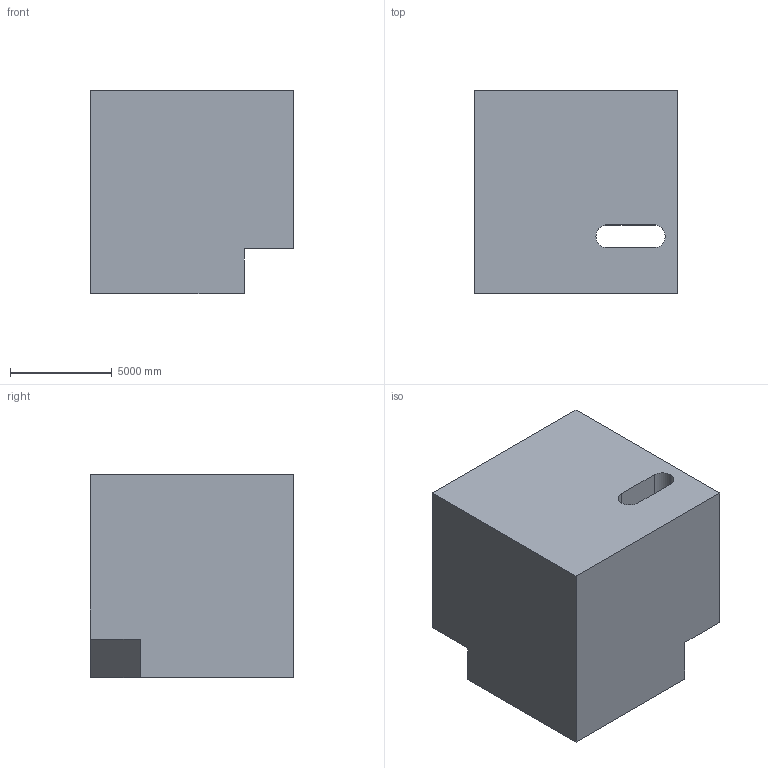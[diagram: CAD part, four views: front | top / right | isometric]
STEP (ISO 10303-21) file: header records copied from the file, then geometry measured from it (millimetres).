
FILE_DESCRIPTION (( 'STEP AP203' ), '1' );
FILE_NAME ('1252.STEP', '2022-08-18T13:24:06', ( 'user' ), ( '' ), 'SwSTEP 2.0', 'SolidWorks 2021', '' );
FILE_SCHEMA (( 'CONFIG_CONTROL_DESIGN' ));
Length unit declared in the file: centimetre
Products named in the file (1): 1252
Bounding box: 10000 x 10000 x 10000 mm (x, y, z)
Volume: 906208877333.4 mm3; surface area: 647966357.4 mm2
Topology: 1 solids, 1 shells, 16 faces, 45 edges, 30 vertices
Faces by surface type: plane 13, cylinder 3
Entity records: 596 total; most frequent: CARTESIAN_POINT 92, ORIENTED_EDGE 90, DIRECTION 85, EDGE_CURVE 45, VECTOR 39, LINE 39, VERTEX_POINT 30, AXIS2_PLACEMENT_3D 23
